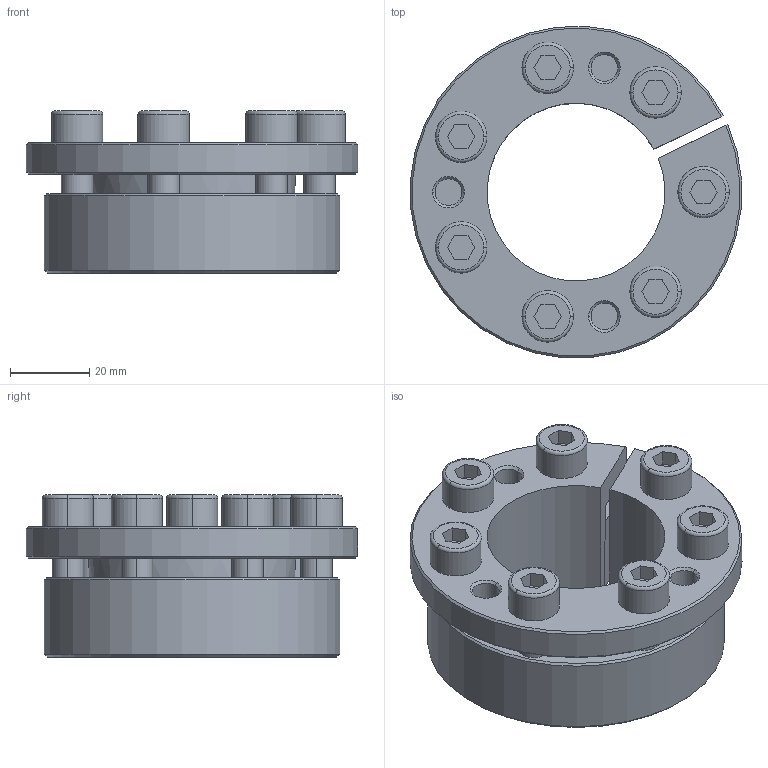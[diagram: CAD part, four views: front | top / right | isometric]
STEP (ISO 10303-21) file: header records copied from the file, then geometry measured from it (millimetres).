
FILE_DESCRIPTION((''),'2;1');
FILE_NAME('398-011-0045','2024-02-18T',('Brieden'),('Brieden'),'PRO/ENGINEER BY PARAMETRIC TECHNOLOGY CORPORATION, 2010160','PRO/ENGINEER BY PARAMETRIC TECHNOLOGY CORPORATION, 2010160','');
FILE_SCHEMA(('AUTOMOTIVE_DESIGN { 1 0 10303 214 1 1 1 1 }'));
Length unit declared in the file: millimetre
Products named in the file (1): 398-011-0045
Bounding box: 83.78 x 83.79 x 41 mm (x, y, z)
Volume: 95607 mm3; surface area: 38813.8 mm2
Topology: 2 solids, 2 shells, 190 faces, 434 edges, 276 vertices
Faces by surface type: plane 79, cylinder 65, cone 32, torus 14
Entity records: 6992 total; most frequent: DIRECTION 996, CARTESIAN_POINT 960, ORIENTED_EDGE 868, PRESENTATION_STYLE_ASSIGNMENT 453, STYLED_ITEM 436, CURVE_STYLE 434, EDGE_CURVE 434, AXIS2_PLACEMENT_3D 383
